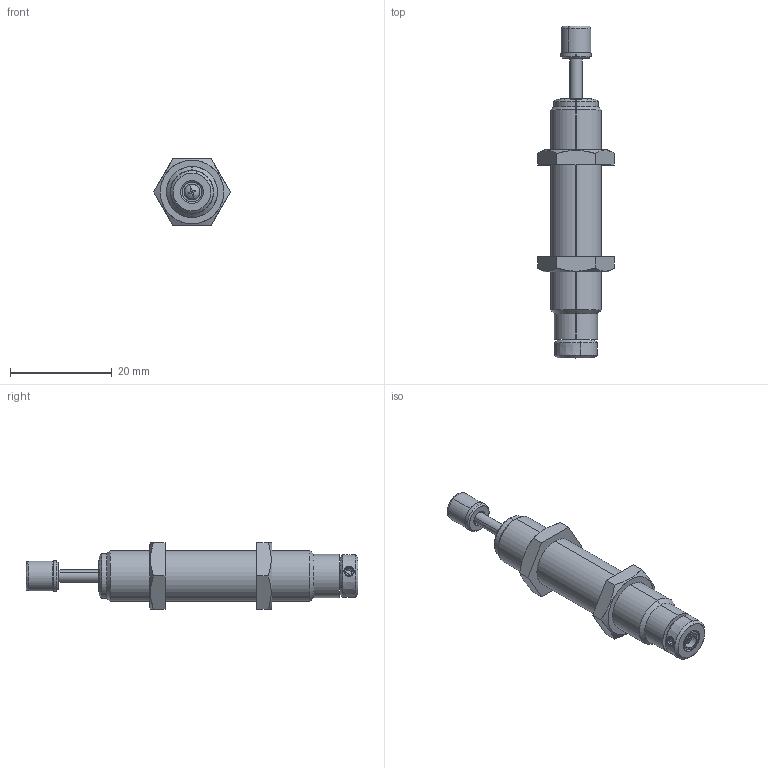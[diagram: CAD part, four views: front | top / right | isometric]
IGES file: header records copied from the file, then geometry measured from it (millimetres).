
Start section: SolidWorks IGES file using analytic representation for surfaces
Bounding box: 15.01 x 65.2 x 13 mm (x, y, z)
Surface area: 2732.8 mm2 (no closed solid volume)
Topology: 0 solids, 0 shells, 103 faces, 1292 edges, 1292 vertices
Faces by surface type: revolution 52, bspline 51
